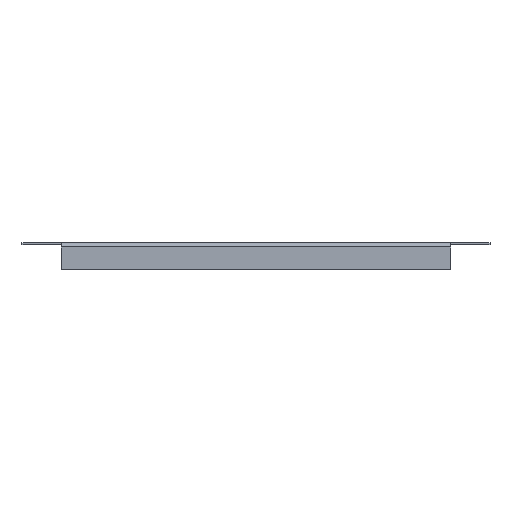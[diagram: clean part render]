
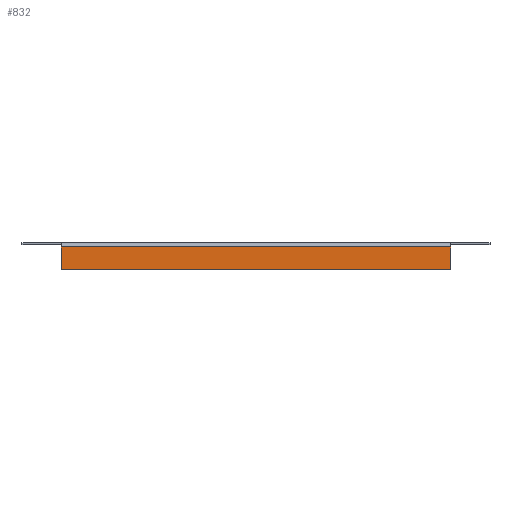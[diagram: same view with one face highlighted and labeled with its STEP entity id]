
A CAD part, front view. The second image highlights one B-rep face of the part: STEP entity #832.
In plain terms, the highlighted planar face has unit normal (0, -1, 0).
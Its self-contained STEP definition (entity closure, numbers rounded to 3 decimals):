
#26 = LINE ( 'NONE', #911, #348 ) ;
#62 = CARTESIAN_POINT ( 'NONE',  ( 110.2, -149.5, 0. ) ) ;
#95 = EDGE_CURVE ( 'NONE', #358, #458, #1003, .T. ) ;
#212 = CARTESIAN_POINT ( 'NONE',  ( 110.2, -149.5, -13.8 ) ) ;
#218 = LINE ( 'NONE', #1300, #301 ) ;
#255 = EDGE_CURVE ( 'NONE', #931, #258, #218, .T. ) ;
#258 = VERTEX_POINT ( 'NONE', #985 ) ;
#269 = DIRECTION ( 'NONE',  ( 1., 0., 0. ) ) ;
#274 = CARTESIAN_POINT ( 'NONE',  ( 110.2, -149.5, -1.2 ) ) ;
#275 = DIRECTION ( 'NONE',  ( 0., 0., -1. ) ) ;
#286 = ORIENTED_EDGE ( 'NONE', *, *, #95, .F. ) ;
#301 = VECTOR ( 'NONE', #1211, 1000. ) ;
#303 = CARTESIAN_POINT ( 'NONE',  ( 110.2, -149.5, 0. ) ) ;
#315 = VECTOR ( 'NONE', #275, 1000. ) ;
#328 = EDGE_CURVE ( 'NONE', #258, #358, #26, .T. ) ;
#348 = VECTOR ( 'NONE', #1224, 1000. ) ;
#358 = VERTEX_POINT ( 'NONE', #1025 ) ;
#458 = VERTEX_POINT ( 'NONE', #935 ) ;
#470 = VECTOR ( 'NONE', #269, 1000. ) ;
#605 = AXIS2_PLACEMENT_3D ( 'NONE', #303, #1315, #1001 ) ;
#610 = LINE ( 'NONE', #62, #315 ) ;
#711 = EDGE_CURVE ( 'NONE', #458, #931, #610, .T. ) ;
#748 = FACE_OUTER_BOUND ( 'NONE', #894, .T. ) ;
#832 = ADVANCED_FACE ( 'NONE', ( #748 ), #906, .F. ) ;
#894 = EDGE_LOOP ( 'NONE', ( #286, #1208, #919, #1227 ) ) ;
#906 = PLANE ( 'NONE',  #605 ) ;
#911 = CARTESIAN_POINT ( 'NONE',  ( -110.2, -149.5, -13.8 ) ) ;
#919 = ORIENTED_EDGE ( 'NONE', *, *, #255, .F. ) ;
#931 = VERTEX_POINT ( 'NONE', #212 ) ;
#935 = CARTESIAN_POINT ( 'NONE',  ( 110.2, -149.5, -1.2 ) ) ;
#985 = CARTESIAN_POINT ( 'NONE',  ( -110.2, -149.5, -13.8 ) ) ;
#1001 = DIRECTION ( 'NONE',  ( 0., 0., 1. ) ) ;
#1003 = LINE ( 'NONE', #274, #470 ) ;
#1025 = CARTESIAN_POINT ( 'NONE',  ( -110.2, -149.5, -1.2 ) ) ;
#1208 = ORIENTED_EDGE ( 'NONE', *, *, #328, .F. ) ;
#1211 = DIRECTION ( 'NONE',  ( -1., 0., 0. ) ) ;
#1224 = DIRECTION ( 'NONE',  ( 0., 0., 1. ) ) ;
#1227 = ORIENTED_EDGE ( 'NONE', *, *, #711, .F. ) ;
#1300 = CARTESIAN_POINT ( 'NONE',  ( 110.2, -149.5, -13.8 ) ) ;
#1315 = DIRECTION ( 'NONE',  ( 0., 1., 0. ) ) ;
